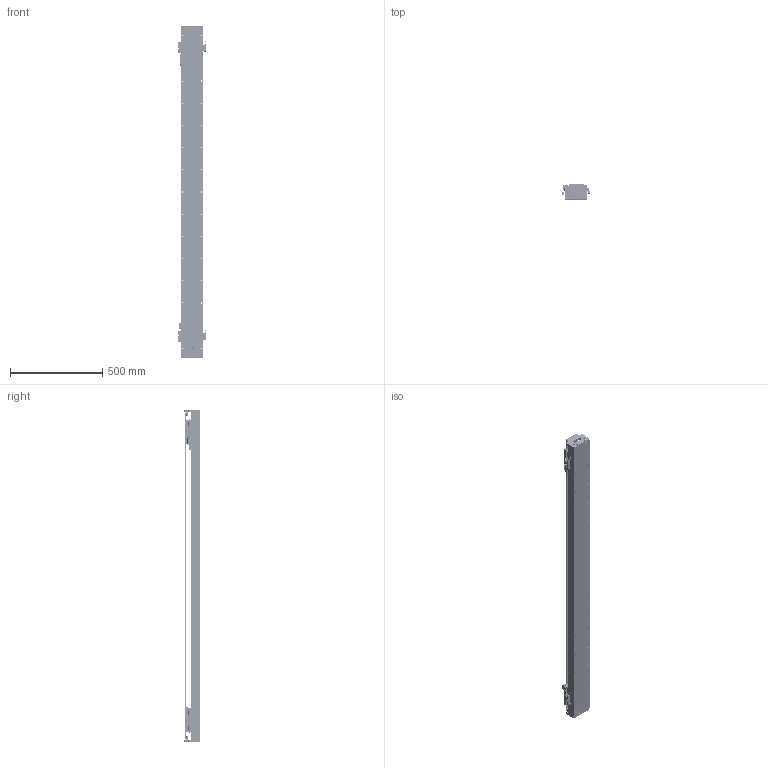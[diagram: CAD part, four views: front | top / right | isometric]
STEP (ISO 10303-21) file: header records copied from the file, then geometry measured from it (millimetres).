
FILE_DESCRIPTION (( 'STEP AP203' ), '1' );
FILE_NAME ('DKW120-2×B15-W060（T1400-L005-0.2）.STEP', '2021-09-29T02:46:42', ( '微软用户' ), ( '微软中国' ), 'SwSTEP 2.0', 'SolidWorks 2018', '' );
FILE_SCHEMA (( 'CONFIG_CONTROL_DESIGN' ));
Length unit declared in the file: millimetre
Products named in the file (27): 10980-0001-003-00 嫖萇羲壽嘐隅釱; 12160-0000-003-00 DKW120詩湍嶺輸; BKM015-W060-C1-TP-3; EE_SX674A; 12160-0000-004-00  DKW120詩湍揤輸; B15-W060; DKW-DG-XJ-Z-00 笢潔滅袉砎蝶; DKW120 单轴模组-拉钢带组件; MSB15-DG-U; BKMA01-W060-TRL280; 06652-0001-001-00 DKW120傷啣; DKW120-B15-T300-DZ-00 菁釱; RUS嫖掑喜; 06652-0001-004-00 DKW120嶺輸菜輸; DKW-SG-GYP-H-00 嫖萇覜茼え; Ru2; DKW-GYP-ZJ-00 笢潔嫖萇覜茼え; DKW-HXJ-JY-00 遣喳砎蝶; DKW-HYB-JY-A-00 賑輸揤啣A; RUS嫖掑郪璃; DKW-KGZ-ZJ-00 中间光电开关支架; 10940-0001-004-00 120詩湍裔啣; DKW119-HT-C15-00 賑怢啣; DKW119-RU-DTJ-00 RU2黍杅芛盓殤; DKW120-2×B15-W060（T1400-L005-0.2）; 砎蝶猾沭; MSB15TS2FC+U92.7-16.35_16.35N_(0_45.85_0_01G-M4)
Assembly tree (49 placements, depth 3):
  DKW120-2×B15-W060（T1400-L005-0.2）
    DKW120-B15-T300-DZ-00 菁釱
    B15-W060  x2
      DKW-SG-GYP-H-00 嫖萇覜茼え
      DKW-HYB-JY-A-00 賑輸揤啣A
      DKW119-HT-C15-00 賑怢啣
      MSB15TS2FC+U92.7-16.35_16.35N_(0_45.85_0_01G-M4)
      BKM015-W060-C1-TP-3
    MSB15-DG-U  x2
    DKW120 单轴模组-拉钢带组件
      06652-0001-001-00 DKW120傷啣  x2
      06652-0001-004-00 DKW120嶺輸菜輸  x4
      DKW-HXJ-JY-00 遣喳砎蝶  x4
      10940-0001-004-00 120詩湍裔啣
      砎蝶猾沭  x2
      12160-0000-003-00 DKW120詩湍嶺輸  x2
      12160-0000-004-00  DKW120詩湍揤輸  x2
    BKMA01-W060-TRL280
    RUS嫖掑郪璃
      RUS嫖掑喜
      Ru2
    DKW119-RU-DTJ-00 RU2黍杅芛盓殤  x2
    10980-0001-003-00 嫖萇羲壽嘐隅釱  x2
    EE_SX674A  x5
    DKW-DG-XJ-Z-00 笢潔滅袉砎蝶
    DKW-GYP-ZJ-00 笢潔嫖萇覜茼え
    DKW-KGZ-ZJ-00 中间光电开关支架
    Ru2
Bounding box: 154.09 x 84 x 1796 mm (x, y, z)
Volume: 6579408.3 mm3; surface area: 2593413.4 mm2
Topology: 76 solids, 174 shells, 6844 faces, 18436 edges, 11875 vertices
Faces by surface type: plane 3906, cylinder 1848, cone 556, bspline 534
Entity records: 126903 total; most frequent: CARTESIAN_POINT 45185, ORIENTED_EDGE 16751, DIRECTION 15431, EDGE_CURVE 8416, VERTEX_POINT 5513, LINE 5175, VECTOR 5175, AXIS2_PLACEMENT_3D 5128
